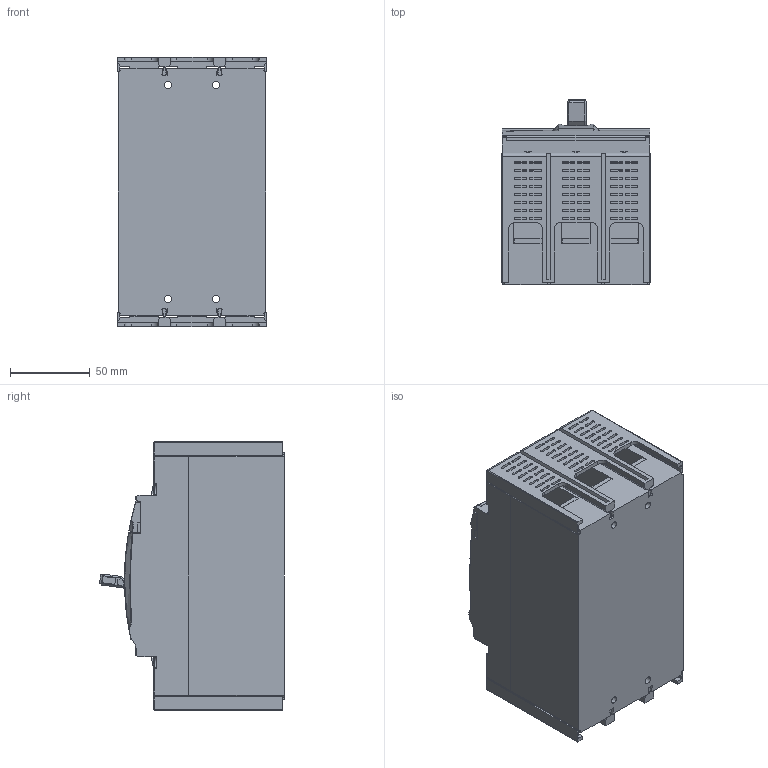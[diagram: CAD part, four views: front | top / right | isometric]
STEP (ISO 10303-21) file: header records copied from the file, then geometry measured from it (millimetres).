
FILE_DESCRIPTION((''),'2;1');
FILE_NAME('2TZD-256-1146_ASM_ASM_ASM','2017-04-24T',('CHEN'),(''),'PRO/ENGINEER BY PARAMETRIC TECHNOLOGY CORPORATION, 2016360','PRO/ENGINEER BY PARAMETRIC TECHNOLOGY CORPORATION, 2016360','');
FILE_SCHEMA(('CONFIG_CONTROL_DESIGN','GEOMETRIC_VALIDATION_PROPERTIES_MIM'));
Products named in the file (3): TGM3E-125-3P-JIZUO_592_2; 8TZD_315_1527_206_1; 2TZD-256-1146_ASM_ASM_ASM
Assembly tree (2 placements, depth 2):
  2TZD-256-1146_ASM_ASM_ASM
    TGM3E-125-3P-JIZUO_592_2
    8TZD_315_1527_206_1
Bounding box: 93 x 115.67 x 168.52 mm (x, y, z)
Volume: 1223262.1 mm3; surface area: 172952.5 mm2
Topology: 2 solids, 23 shells, 2486 faces, 6936 edges, 4479 vertices
Faces by surface type: plane 1379, cylinder 799, bspline 141, torus 86, sphere 52, extrusion 15, cone 14
Entity records: 86706 total; most frequent: CARTESIAN_POINT 22489, ORIENTED_EDGE 13788, DIRECTION 12853, EDGE_CURVE 6894, VECTOR 4497, LINE 4482, VERTEX_POINT 4479, AXIS2_PLACEMENT_3D 4178
